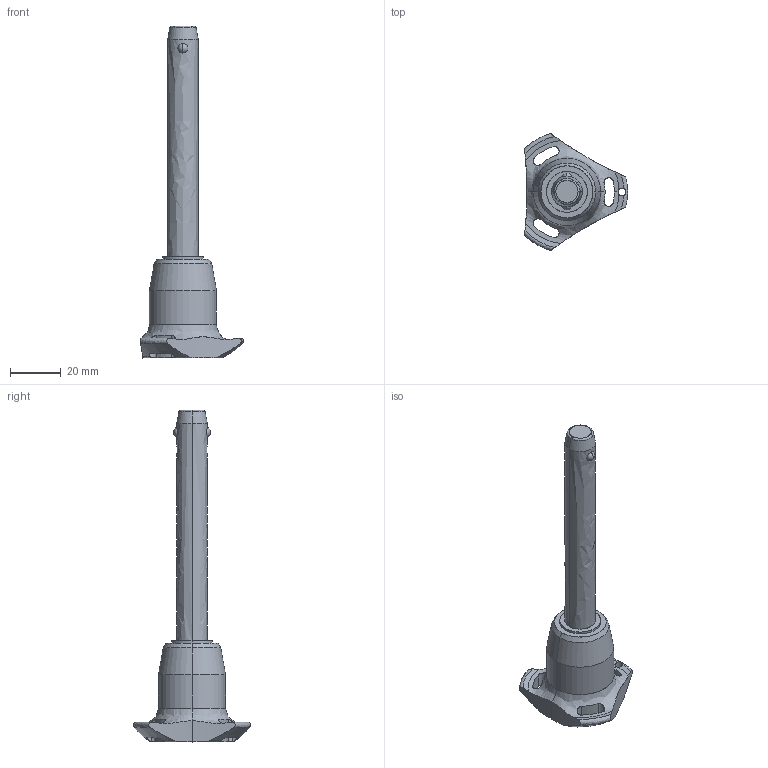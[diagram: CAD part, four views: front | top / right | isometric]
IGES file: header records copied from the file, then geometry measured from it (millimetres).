
Start section: SolidWorks IGES file using analytic representation for surfaces
Global section: file name: C:\Users\ianosborn\Desktop\QR1724_v2\QR1724_v2_20251112_IGES\QR1724.M12-080-S.igs; native system: SolidWorks 2019; preprocessor: SolidWorks 2019; author: IanOsborn; date: 251112.125942; units: millimetre
Bounding box: 40.5 x 45.88 x 130.3 mm (x, y, z)
Surface area: 9353.5 mm2 (no closed solid volume)
Topology: 0 solids, 0 shells, 65 faces, 1363 edges, 1359 vertices
Faces by surface type: revolution 50, bspline 15
